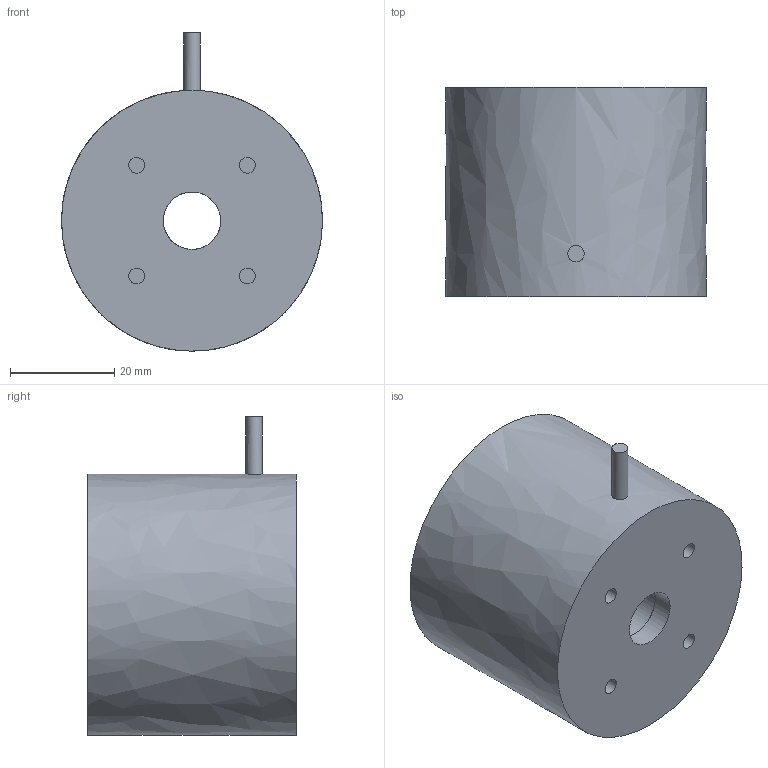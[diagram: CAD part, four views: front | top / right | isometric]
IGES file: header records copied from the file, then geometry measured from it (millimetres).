
Global section: file name: 153-00704_LD 50 xD-24-KFL5; native system: Autodesk Inventor 2018; preprocessor: unknown; author: ss; date: 20180726.095445; units: millimetre
Bounding box: 50 x 40 x 61 mm (x, y, z)
Volume: 58356.9 mm3; surface area: 23110.2 mm2
Topology: 2 solids, 2 shells, 27 faces, 69 edges, 52 vertices
Faces by surface type: bspline 27
